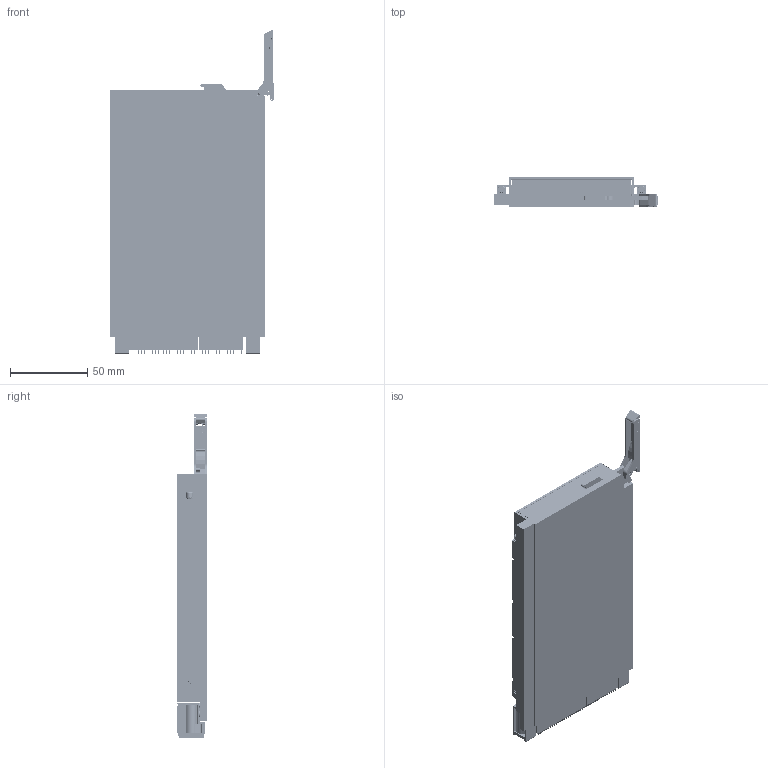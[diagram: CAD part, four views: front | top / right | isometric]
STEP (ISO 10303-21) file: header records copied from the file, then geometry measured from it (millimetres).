
FILE_DESCRIPTION (( 'STEP AP203' ), '1' );
FILE_NAME ('3U-VPX48.2-PS-265-311TC extracted.step', '2018-06-15T20:55:32', ( '' ), ( '' ), 'SwSTEP 2.0', 'SolidWorks 2014', '' );
FILE_SCHEMA (( 'CONFIG_CONTROL_DESIGN' ));
Products named in the file (1): 3U-VPX48.2-PS-265-311TC extracted
Bounding box: 105.84 x 19.58 x 209.66 mm (x, y, z)
Volume: 257665.5 mm3; surface area: 220640.1 mm2
Topology: 306 solids, 306 shells, 21791 faces, 61190 edges, 39670 vertices
Faces by surface type: plane 17860, cylinder 2742, bspline 1004, cone 179, torus 6
Entity records: 744754 total; most frequent: CARTESIAN_POINT 191755, ORIENTED_EDGE 118712, DIRECTION 105518, EDGE_CURVE 59356, VECTOR 51180, LINE 51180, VERTEX_POINT 39670, AXIS2_PLACEMENT_3D 27169
